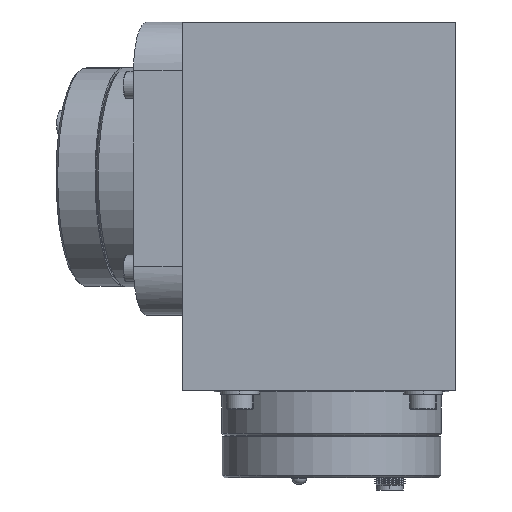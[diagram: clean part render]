
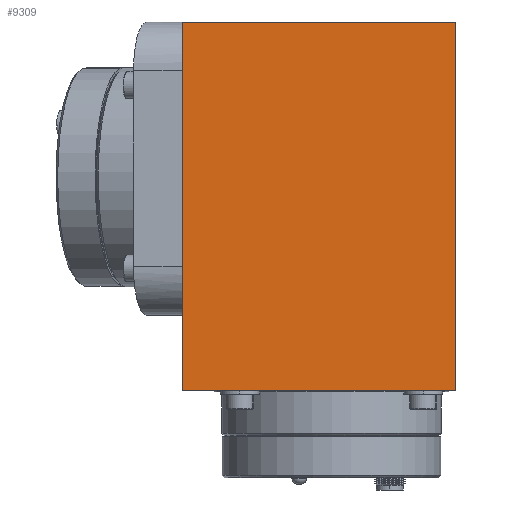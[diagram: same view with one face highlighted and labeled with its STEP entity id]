
A CAD part, left-side view. The second image highlights one B-rep face of the part: STEP entity #9309.
In plain terms, the highlighted planar face has unit normal (-1, 0, 0).
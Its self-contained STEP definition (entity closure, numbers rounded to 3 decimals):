
#42 = VECTOR ( 'NONE', #2038, 1000. ) ;
#49 = VECTOR ( 'NONE', #2127, 1000. ) ;
#50 = VECTOR ( 'NONE', #2119, 1000. ) ;
#78 = VECTOR ( 'NONE', #2094, 1000. ) ;
#266 = AXIS2_PLACEMENT_3D ( 'NONE', #2828, #2834, #2835 ) ;
#429 = VERTEX_POINT ( 'NONE', #12188 ) ;
#561 = ORIENTED_EDGE ( 'NONE', *, *, #9181, .T. ) ;
#631 = ORIENTED_EDGE ( 'NONE', *, *, #9163, .F. ) ;
#650 = VERTEX_POINT ( 'NONE', #12304 ) ;
#654 = VERTEX_POINT ( 'NONE', #12311 ) ;
#691 = VERTEX_POINT ( 'NONE', #12312 ) ;
#954 = ORIENTED_EDGE ( 'NONE', *, *, #9192, .T. ) ;
#968 = ORIENTED_EDGE ( 'NONE', *, *, #9189, .T. ) ;
#2036 = LINE ( 'NONE', #2037, #42 ) ;
#2037 = CARTESIAN_POINT ( 'NONE',  ( -31., 70., 31. ) ) ;
#2038 = DIRECTION ( 'NONE',  ( 0., -1., 0. ) ) ;
#2092 = LINE ( 'NONE', #2093, #78 ) ;
#2093 = CARTESIAN_POINT ( 'NONE',  ( -31., 0., -44.45 ) ) ;
#2094 = DIRECTION ( 'NONE',  ( 0., 0., 1. ) ) ;
#2109 = LINE ( 'NONE', #2110, #50 ) ;
#2110 = CARTESIAN_POINT ( 'NONE',  ( -31., 70., -44.45 ) ) ;
#2115 = CARTESIAN_POINT ( 'NONE',  ( -31., 56., 31. ) ) ;
#2119 = DIRECTION ( 'NONE',  ( 0., -1., 0. ) ) ;
#2121 = LINE ( 'NONE', #2115, #49 ) ;
#2127 = DIRECTION ( 'NONE',  ( 0., 0., -1. ) ) ;
#2821 = PLANE ( 'NONE',  #266 ) ;
#2828 = CARTESIAN_POINT ( 'NONE',  ( -31., 70., -44.45 ) ) ;
#2833 = FACE_OUTER_BOUND ( 'NONE', #10740, .T. ) ;
#2834 = DIRECTION ( 'NONE',  ( 1., 0., 0. ) ) ;
#2835 = DIRECTION ( 'NONE',  ( 0., 0., -1. ) ) ;
#9163 = EDGE_CURVE ( 'NONE', #691, #654, #2036, .T. ) ;
#9181 = EDGE_CURVE ( 'NONE', #650, #654, #2092, .T. ) ;
#9189 = EDGE_CURVE ( 'NONE', #429, #650, #2109, .T. ) ;
#9192 = EDGE_CURVE ( 'NONE', #691, #429, #2121, .T. ) ;
#9309 = ADVANCED_FACE ( 'NONE', ( #2833 ), #2821, .F. ) ;
#10740 = EDGE_LOOP ( 'NONE', ( #631, #954, #968, #561 ) ) ;
#12188 = CARTESIAN_POINT ( 'NONE',  ( -31., 56., -44.45 ) ) ;
#12304 = CARTESIAN_POINT ( 'NONE',  ( -31., 0., -44.45 ) ) ;
#12311 = CARTESIAN_POINT ( 'NONE',  ( -31., 0., 31. ) ) ;
#12312 = CARTESIAN_POINT ( 'NONE',  ( -31., 56., 31. ) ) ;
